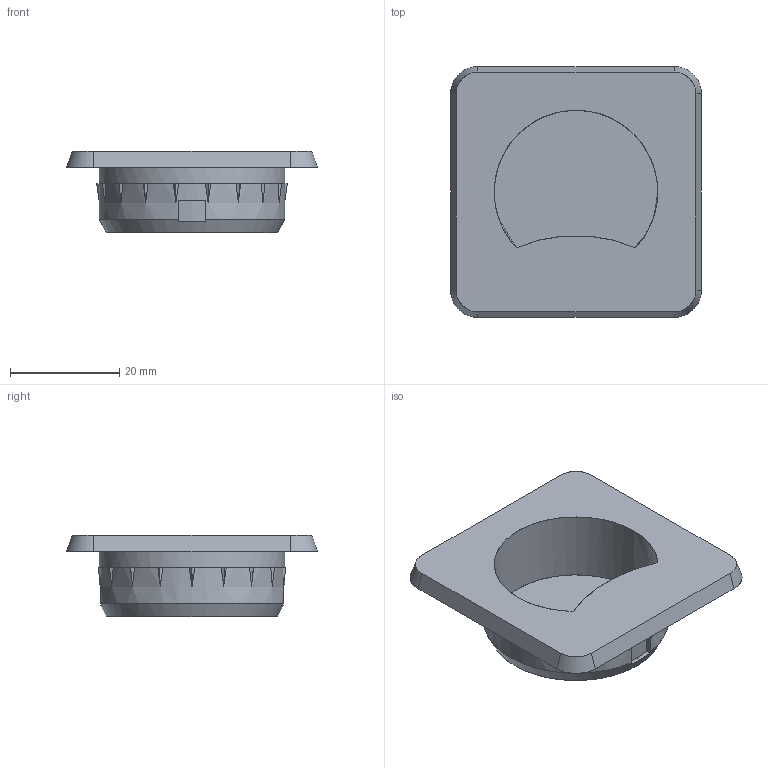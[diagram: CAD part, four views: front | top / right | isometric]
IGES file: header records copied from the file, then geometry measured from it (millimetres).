
Start section: C
Global section: file name: 0001-46.igs; native system: By Siemens PLM Incorporated; preprocessor: XPlus GENERIC/IGES 16.0.42; author: Author; organization: Title; date: 20231129.111052; units: millimetre
Bounding box: 46 x 46 x 15 mm (x, y, z)
Surface area: 8916.6 mm2 (no closed solid volume)
Topology: 0 solids, 0 shells, 66 faces, 390 edges, 390 vertices
Faces by surface type: bspline 66
